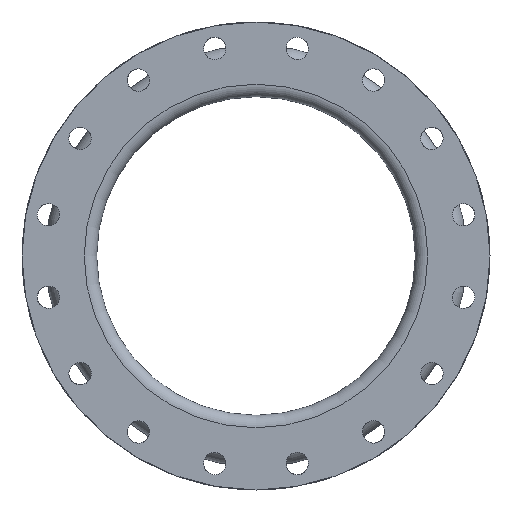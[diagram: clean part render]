
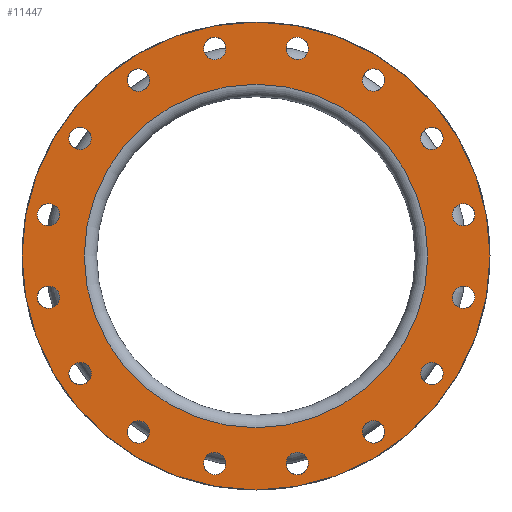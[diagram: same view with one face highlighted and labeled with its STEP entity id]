
A CAD part, left-side view. The second image highlights one B-rep face of the part: STEP entity #11447.
In plain terms, the highlighted planar face has unit normal (-1, 0, 0).
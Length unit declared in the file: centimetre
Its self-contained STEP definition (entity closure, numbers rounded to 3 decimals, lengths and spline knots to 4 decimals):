
#552=FACE_BOUND('',#1823,.T.);
#553=FACE_BOUND('',#1824,.T.);
#554=FACE_BOUND('',#1825,.T.);
#555=FACE_BOUND('',#1826,.T.);
#556=FACE_BOUND('',#1827,.T.);
#557=FACE_BOUND('',#1828,.T.);
#558=FACE_BOUND('',#1829,.T.);
#559=FACE_BOUND('',#1830,.T.);
#560=FACE_BOUND('',#1831,.T.);
#561=FACE_BOUND('',#1832,.T.);
#562=FACE_BOUND('',#1833,.T.);
#563=FACE_BOUND('',#1834,.T.);
#564=FACE_BOUND('',#1835,.T.);
#565=FACE_BOUND('',#1836,.T.);
#566=FACE_BOUND('',#1837,.T.);
#567=FACE_BOUND('',#1838,.T.);
#568=FACE_BOUND('',#1839,.T.);
#569=FACE_BOUND('',#1840,.T.);
#1823=EDGE_LOOP('',(#8743));
#1824=EDGE_LOOP('',(#8744));
#1825=EDGE_LOOP('',(#8745));
#1826=EDGE_LOOP('',(#8746));
#1827=EDGE_LOOP('',(#8747));
#1828=EDGE_LOOP('',(#8748));
#1829=EDGE_LOOP('',(#8749));
#1830=EDGE_LOOP('',(#8750));
#1831=EDGE_LOOP('',(#8751));
#1832=EDGE_LOOP('',(#8752));
#1833=EDGE_LOOP('',(#8753));
#1834=EDGE_LOOP('',(#8754));
#1835=EDGE_LOOP('',(#8755));
#1836=EDGE_LOOP('',(#8756));
#1837=EDGE_LOOP('',(#8757));
#1838=EDGE_LOOP('',(#8758));
#1839=EDGE_LOOP('',(#8759));
#1840=EDGE_LOOP('',(#8760));
#3958=CIRCLE('',#12433,1.4288);
#3960=CIRCLE('',#12436,1.4288);
#3962=CIRCLE('',#12439,1.4288);
#3964=CIRCLE('',#12442,1.4288);
#3966=CIRCLE('',#12445,1.4288);
#3968=CIRCLE('',#12448,1.4288);
#3970=CIRCLE('',#12451,1.4288);
#3972=CIRCLE('',#12454,1.4288);
#3974=CIRCLE('',#12457,1.4288);
#3976=CIRCLE('',#12460,1.4288);
#3978=CIRCLE('',#12463,1.4288);
#3980=CIRCLE('',#12466,1.4288);
#3982=CIRCLE('',#12469,1.4288);
#3984=CIRCLE('',#12472,1.4288);
#3986=CIRCLE('',#12475,1.4288);
#3988=CIRCLE('',#12478,1.4288);
#4032=CIRCLE('',#12549,21.9075);
#4033=CIRCLE('',#12551,29.845);
#4966=VERTEX_POINT('',#18777);
#4968=VERTEX_POINT('',#18782);
#4970=VERTEX_POINT('',#18787);
#4972=VERTEX_POINT('',#18792);
#4974=VERTEX_POINT('',#18797);
#4976=VERTEX_POINT('',#18802);
#4978=VERTEX_POINT('',#18807);
#4980=VERTEX_POINT('',#18812);
#4982=VERTEX_POINT('',#18817);
#4984=VERTEX_POINT('',#18822);
#4986=VERTEX_POINT('',#18827);
#4988=VERTEX_POINT('',#18832);
#4990=VERTEX_POINT('',#18837);
#4992=VERTEX_POINT('',#18842);
#4994=VERTEX_POINT('',#18847);
#4996=VERTEX_POINT('',#18852);
#5040=VERTEX_POINT('',#18967);
#5041=VERTEX_POINT('',#18970);
#6318=EDGE_CURVE('',#4966,#4966,#3958,.T.);
#6320=EDGE_CURVE('',#4968,#4968,#3960,.T.);
#6322=EDGE_CURVE('',#4970,#4970,#3962,.T.);
#6324=EDGE_CURVE('',#4972,#4972,#3964,.T.);
#6326=EDGE_CURVE('',#4974,#4974,#3966,.T.);
#6328=EDGE_CURVE('',#4976,#4976,#3968,.T.);
#6330=EDGE_CURVE('',#4978,#4978,#3970,.T.);
#6332=EDGE_CURVE('',#4980,#4980,#3972,.T.);
#6334=EDGE_CURVE('',#4982,#4982,#3974,.T.);
#6336=EDGE_CURVE('',#4984,#4984,#3976,.T.);
#6338=EDGE_CURVE('',#4986,#4986,#3978,.T.);
#6340=EDGE_CURVE('',#4988,#4988,#3980,.T.);
#6342=EDGE_CURVE('',#4990,#4990,#3982,.T.);
#6344=EDGE_CURVE('',#4992,#4992,#3984,.T.);
#6346=EDGE_CURVE('',#4994,#4994,#3986,.T.);
#6348=EDGE_CURVE('',#4996,#4996,#3988,.T.);
#6392=EDGE_CURVE('',#5040,#5040,#4032,.T.);
#6393=EDGE_CURVE('',#5041,#5041,#4033,.T.);
#8743=ORIENTED_EDGE('',*,*,#6318,.T.);
#8744=ORIENTED_EDGE('',*,*,#6320,.T.);
#8745=ORIENTED_EDGE('',*,*,#6322,.T.);
#8746=ORIENTED_EDGE('',*,*,#6324,.T.);
#8747=ORIENTED_EDGE('',*,*,#6326,.T.);
#8748=ORIENTED_EDGE('',*,*,#6328,.T.);
#8749=ORIENTED_EDGE('',*,*,#6330,.T.);
#8750=ORIENTED_EDGE('',*,*,#6332,.T.);
#8751=ORIENTED_EDGE('',*,*,#6334,.T.);
#8752=ORIENTED_EDGE('',*,*,#6336,.T.);
#8753=ORIENTED_EDGE('',*,*,#6338,.T.);
#8754=ORIENTED_EDGE('',*,*,#6340,.T.);
#8755=ORIENTED_EDGE('',*,*,#6342,.T.);
#8756=ORIENTED_EDGE('',*,*,#6344,.T.);
#8757=ORIENTED_EDGE('',*,*,#6346,.T.);
#8758=ORIENTED_EDGE('',*,*,#6348,.T.);
#8759=ORIENTED_EDGE('',*,*,#6393,.F.);
#8760=ORIENTED_EDGE('',*,*,#6392,.T.);
#10425=PLANE('',#12550);
#11447=ADVANCED_FACE('',(#552,#553,#554,#555,#556,#557,#558,#559,#560,#561,
#562,#563,#564,#565,#566,#567,#568,#569),#10425,.T.);
#12433=AXIS2_PLACEMENT_3D('',#18778,#14957,#14958);
#12436=AXIS2_PLACEMENT_3D('',#18783,#14963,#14964);
#12439=AXIS2_PLACEMENT_3D('',#18788,#14969,#14970);
#12442=AXIS2_PLACEMENT_3D('',#18793,#14975,#14976);
#12445=AXIS2_PLACEMENT_3D('',#18798,#14981,#14982);
#12448=AXIS2_PLACEMENT_3D('',#18803,#14987,#14988);
#12451=AXIS2_PLACEMENT_3D('',#18808,#14993,#14994);
#12454=AXIS2_PLACEMENT_3D('',#18813,#14999,#15000);
#12457=AXIS2_PLACEMENT_3D('',#18818,#15005,#15006);
#12460=AXIS2_PLACEMENT_3D('',#18823,#15011,#15012);
#12463=AXIS2_PLACEMENT_3D('',#18828,#15017,#15018);
#12466=AXIS2_PLACEMENT_3D('',#18833,#15023,#15024);
#12469=AXIS2_PLACEMENT_3D('',#18838,#15029,#15030);
#12472=AXIS2_PLACEMENT_3D('',#18843,#15035,#15036);
#12475=AXIS2_PLACEMENT_3D('',#18848,#15041,#15042);
#12478=AXIS2_PLACEMENT_3D('',#18853,#15047,#15048);
#12549=AXIS2_PLACEMENT_3D('',#18968,#15189,#15190);
#12550=AXIS2_PLACEMENT_3D('',#18969,#15191,#15192);
#12551=AXIS2_PLACEMENT_3D('',#18971,#15193,#15194);
#14957=DIRECTION('center_axis',(1.,0.,0.));
#14958=DIRECTION('ref_axis',(0.,-0.924,
0.383));
#14963=DIRECTION('center_axis',(1.,0.,0.));
#14964=DIRECTION('ref_axis',(0.,-0.707,
0.707));
#14969=DIRECTION('center_axis',(1.,0.,0.));
#14970=DIRECTION('ref_axis',(0.,-0.383,
0.924));
#14975=DIRECTION('center_axis',(1.,0.,0.));
#14976=DIRECTION('ref_axis',(0.,0.,
1.));
#14981=DIRECTION('center_axis',(1.,0.,0.));
#14982=DIRECTION('ref_axis',(0.,0.383,0.924));
#14987=DIRECTION('center_axis',(1.,0.,0.));
#14988=DIRECTION('ref_axis',(0.,0.707,0.707));
#14993=DIRECTION('center_axis',(1.,0.,0.));
#14994=DIRECTION('ref_axis',(0.,0.924,0.383));
#14999=DIRECTION('center_axis',(1.,0.,0.));
#15000=DIRECTION('ref_axis',(0.,1.,0.));
#15005=DIRECTION('center_axis',(1.,0.,0.));
#15006=DIRECTION('ref_axis',(0.,0.924,-0.383));
#15011=DIRECTION('center_axis',(1.,0.,0.));
#15012=DIRECTION('ref_axis',(0.,0.707,-0.707));
#15017=DIRECTION('center_axis',(1.,0.,0.));
#15018=DIRECTION('ref_axis',(0.,0.383,-0.924));
#15023=DIRECTION('center_axis',(1.,0.,0.));
#15024=DIRECTION('ref_axis',(0.,0.,
-1.));
#15029=DIRECTION('center_axis',(1.,0.,0.));
#15030=DIRECTION('ref_axis',(0.,-0.383,-0.924));
#15035=DIRECTION('center_axis',(1.,0.,0.));
#15036=DIRECTION('ref_axis',(0.,-0.707,
-0.707));
#15041=DIRECTION('center_axis',(1.,0.,0.));
#15042=DIRECTION('ref_axis',(0.,-0.924,
-0.383));
#15047=DIRECTION('center_axis',(1.,0.,0.));
#15048=DIRECTION('ref_axis',(0.,-1.,0.));
#15189=DIRECTION('center_axis',(1.,0.,0.));
#15190=DIRECTION('ref_axis',(0.,0.,-1.));
#15191=DIRECTION('center_axis',(-1.,0.,0.));
#15192=DIRECTION('ref_axis',(0.,0.,1.));
#15193=DIRECTION('center_axis',(1.,0.,0.));
#15194=DIRECTION('ref_axis',(0.,0.,-1.));
#18777=CARTESIAN_POINT('',(-15.24,23.7593,-15.5402));
#18778=CARTESIAN_POINT('Origin',(-15.24,22.4393,-14.9935));
#18782=CARTESIAN_POINT('',(-15.24,16.0037,-23.4496));
#18783=CARTESIAN_POINT('Origin',(-15.24,14.9935,-22.4393));
#18787=CARTESIAN_POINT('',(-15.24,5.8118,-27.7889));
#18788=CARTESIAN_POINT('Origin',(-15.24,5.265,-26.4689));
#18792=CARTESIAN_POINT('',(-15.24,-5.265,-27.8977));
#18793=CARTESIAN_POINT('Origin',(-15.24,-5.265,-26.4689));
#18797=CARTESIAN_POINT('',(-15.24,-15.5402,-23.7593));
#18798=CARTESIAN_POINT('Origin',(-15.24,-14.9935,-22.4393));
#18802=CARTESIAN_POINT('',(-15.24,-23.4496,-16.0037));
#18803=CARTESIAN_POINT('Origin',(-15.24,-22.4393,-14.9935));
#18807=CARTESIAN_POINT('',(-15.24,-27.7889,-5.8118));
#18808=CARTESIAN_POINT('Origin',(-15.24,-26.4689,-5.265));
#18812=CARTESIAN_POINT('',(-15.24,-27.8977,5.265));
#18813=CARTESIAN_POINT('Origin',(-15.24,-26.4689,5.265));
#18817=CARTESIAN_POINT('',(-15.24,-23.7593,15.5402));
#18818=CARTESIAN_POINT('Origin',(-15.24,-22.4393,14.9935));
#18822=CARTESIAN_POINT('',(-15.24,-16.0037,23.4496));
#18823=CARTESIAN_POINT('Origin',(-15.24,-14.9935,22.4393));
#18827=CARTESIAN_POINT('',(-15.24,-5.8118,27.7889));
#18828=CARTESIAN_POINT('Origin',(-15.24,-5.265,26.4689));
#18832=CARTESIAN_POINT('',(-15.24,5.265,27.8977));
#18833=CARTESIAN_POINT('Origin',(-15.24,5.265,26.4689));
#18837=CARTESIAN_POINT('',(-15.24,15.5402,23.7593));
#18838=CARTESIAN_POINT('Origin',(-15.24,14.9935,22.4393));
#18842=CARTESIAN_POINT('',(-15.24,23.4496,16.0037));
#18843=CARTESIAN_POINT('Origin',(-15.24,22.4393,14.9935));
#18847=CARTESIAN_POINT('',(-15.24,27.7889,5.8118));
#18848=CARTESIAN_POINT('Origin',(-15.24,26.4689,5.265));
#18852=CARTESIAN_POINT('',(-15.24,27.8977,-5.265));
#18853=CARTESIAN_POINT('Origin',(-15.24,26.4689,-5.265));
#18967=CARTESIAN_POINT('',(-15.24,21.9075,0.));
#18968=CARTESIAN_POINT('Origin',(-15.24,0.,0.));
#18969=CARTESIAN_POINT('Origin',(-15.24,29.845,0.));
#18970=CARTESIAN_POINT('',(-15.24,29.845,0.));
#18971=CARTESIAN_POINT('Origin',(-15.24,0.,0.));
